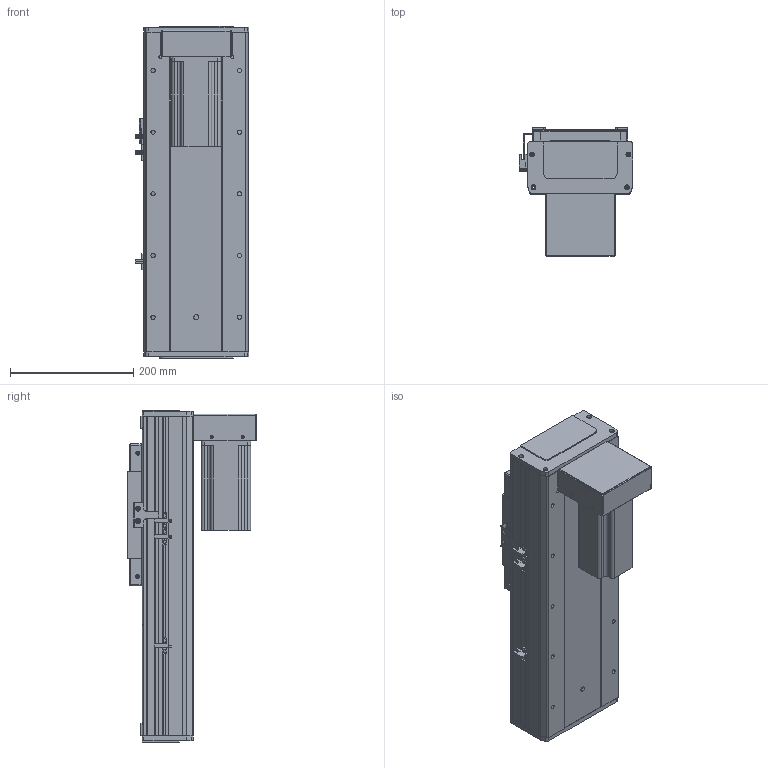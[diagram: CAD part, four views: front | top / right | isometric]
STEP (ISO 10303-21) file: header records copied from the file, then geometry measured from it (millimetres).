
FILE_DESCRIPTION (( 'STEP AP203' ), '1' );
FILE_NAME ('RY170F-L2010-300-BK.SLDASM_200.step', '2021-03-02T08:55:35', ( '盈信电脑' ), ( '东莞市道滘镇水果街19号' ), 'SwSTEP 2.0', 'SolidWorks 2012', '' );
FILE_SCHEMA (( 'CONFIG_CONTROL_DESIGN' ));
Length unit declared in the file: millimetre
Products named in the file (20): RY170狟殏詩湍假蚾輸; RY170F-L2010-300-BK.SLDASM_200; 侐源滅袉蝶; 怢湛750W萇儂ㄗ80遺ㄘ; RY170F-狟殏萇儂假蚾啣(750W); RY170F狟殏萇儂欶; RY170F-詩湍揤踡輸; RY170F-揤踡謫假蚾粣; 滅袉蝶18-24; RY170F俋离覜茼え; RY100F-詩湍揤踡謫; 滅袉蝶18-10; 覜茼ん672; RY170F-綴裔啣; RY170F-300眻蟀倰第菁釱-BK_200; RY170F-佪裝臏賑輸20蹟譫; RY170F-丝杆铝滑块连接板; RY170F-300眻蟀祥凄詩湍-MK_200; RY170F-300眻蟀倰第奻裔啣-BK_200; RY170F-滅鳥奻裔
Assembly tree (25 placements, depth 2):
  RY170F-L2010-300-BK.SLDASM_200
    RY170F-300眻蟀祥凄詩湍-MK_200
    RY170F-300眻蟀倰第奻裔啣-BK_200  x2
    RY170F-滅鳥奻裔
    RY170F-300眻蟀倰第菁釱-BK_200
    RY170F-佪裝臏賑輸20蹟譫
    RY170F-丝杆铝滑块连接板
    滅袉蝶18-10
    RY100F-詩湍揤踡謫
    RY170F-綴裔啣  x2
    覜茼ん672  x3
    RY170F俋离覜茼え
    RY170F-揤踡謫假蚾粣
    RY170F-詩湍揤踡輸  x2
    滅袉蝶18-24
    侐源滅袉蝶  x2
    RY170F-狟殏萇儂假蚾啣(750W)
    怢湛750W萇儂ㄗ80遺ㄘ
    RY170F狟殏萇儂欶
    RY170狟殏詩湍假蚾輸
Bounding box: 183.7 x 208 x 538 mm (x, y, z)
Volume: 4253737.7 mm3; surface area: 1278737.2 mm2
Topology: 25 solids, 25 shells, 1766 faces, 4897 edges, 3128 vertices
Faces by surface type: cylinder 828, plane 762, cone 172, bspline 4
Entity records: 49292 total; most frequent: CARTESIAN_POINT 9916, DIRECTION 7934, ORIENTED_EDGE 7606, EDGE_CURVE 3803, AXIS2_PLACEMENT_3D 2842, VERTEX_POINT 2484, LINE 2250, VECTOR 2250
